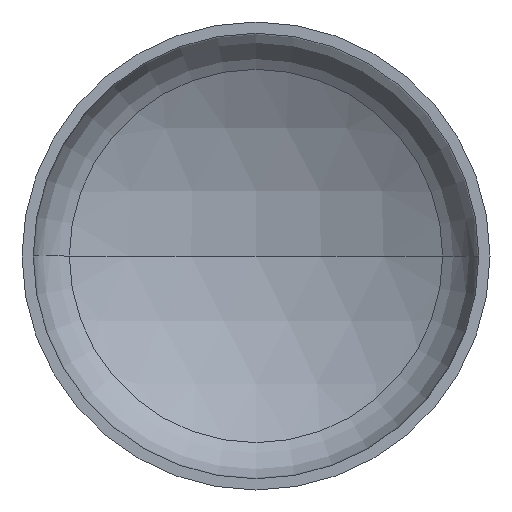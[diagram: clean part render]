
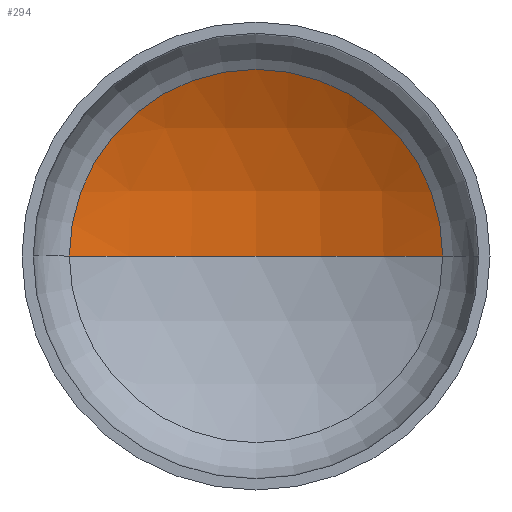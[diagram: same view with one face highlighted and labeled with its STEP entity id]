
A CAD part, front view. The second image highlights one B-rep face of the part: STEP entity #294.
In plain terms, the highlighted spherical face has radius 4000 mm.
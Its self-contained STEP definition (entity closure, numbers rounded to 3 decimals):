
#14 = AXIS2_PLACEMENT_3D ( 'NONE', #392, #46, #383 ) ;
#21 = AXIS2_PLACEMENT_3D ( 'NONE', #175, #179, #154 ) ;
#24 = EDGE_LOOP ( 'NONE', ( #133, #114, #51 ) ) ;
#27 = AXIS2_PLACEMENT_3D ( 'NONE', #304, #208, #206 ) ;
#28 = AXIS2_PLACEMENT_3D ( 'NONE', #145, #164, #165 ) ;
#46 = DIRECTION ( 'NONE',  ( 0., 0., -1. ) ) ;
#51 = ORIENTED_EDGE ( 'NONE', *, *, #62, .T. ) ;
#62 = EDGE_CURVE ( 'NONE', #298, #162, #95, .T. ) ;
#64 = EDGE_CURVE ( 'NONE', #163, #298, #395, .T. ) ;
#67 = EDGE_CURVE ( 'NONE', #163, #162, #268, .T. ) ;
#95 = CIRCLE ( 'NONE', #28, 1993.808 ) ;
#114 = ORIENTED_EDGE ( 'NONE', *, *, #64, .T. ) ;
#133 = ORIENTED_EDGE ( 'NONE', *, *, #67, .F. ) ;
#144 = CARTESIAN_POINT ( 'NONE',  ( 1993.808, 742.526, 0. ) ) ;
#145 = CARTESIAN_POINT ( 'NONE',  ( 0., 742.526, 0. ) ) ;
#154 = DIRECTION ( 'NONE',  ( 1., 0., 0. ) ) ;
#162 = VERTEX_POINT ( 'NONE', #167 ) ;
#163 = VERTEX_POINT ( 'NONE', #194 ) ;
#164 = DIRECTION ( 'NONE',  ( 0., -1., 0. ) ) ;
#165 = DIRECTION ( 'NONE',  ( 1., 0., 0. ) ) ;
#167 = CARTESIAN_POINT ( 'NONE',  ( -1993.808, 742.526, 0. ) ) ;
#175 = CARTESIAN_POINT ( 'NONE',  ( 0., -2725.143, 0. ) ) ;
#179 = DIRECTION ( 'NONE',  ( 0., 0., 1. ) ) ;
#194 = CARTESIAN_POINT ( 'NONE',  ( 0., 1274.857, 0. ) ) ;
#206 = DIRECTION ( 'NONE',  ( -1., 0., 0. ) ) ;
#208 = DIRECTION ( 'NONE',  ( 0., 0., -1. ) ) ;
#250 = FACE_OUTER_BOUND ( 'NONE', #24, .T. ) ;
#268 = CIRCLE ( 'NONE', #21, 4000. ) ;
#294 = ADVANCED_FACE ( 'NONE', ( #250 ), #375, .F. ) ;
#298 = VERTEX_POINT ( 'NONE', #144 ) ;
#304 = CARTESIAN_POINT ( 'NONE',  ( 0., -2725.143, 0. ) ) ;
#375 = SPHERICAL_SURFACE ( 'NONE', #14, 4000. ) ;
#383 = DIRECTION ( 'NONE',  ( -1., 0., 0. ) ) ;
#392 = CARTESIAN_POINT ( 'NONE',  ( 0., -2725.143, 0. ) ) ;
#395 = CIRCLE ( 'NONE', #27, 4000. ) ;
